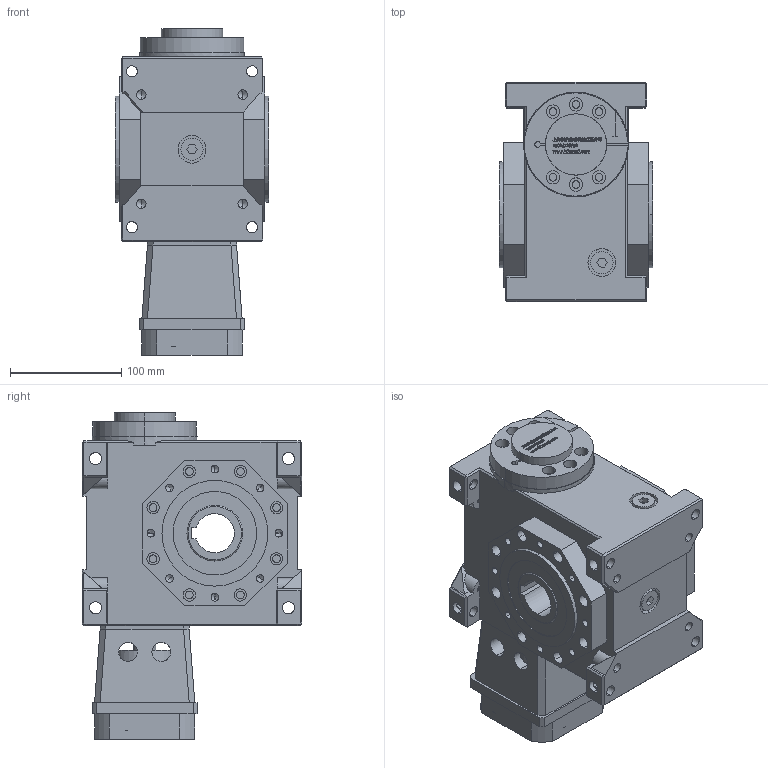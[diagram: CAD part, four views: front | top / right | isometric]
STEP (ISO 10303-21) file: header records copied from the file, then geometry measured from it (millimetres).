
FILE_DESCRIPTION (( 'STEP AP203' ), '1' );
FILE_NAME ('FXLB063-(5~90)-CR-19-70-90-M6.STEP', '2022-11-05T02:42:27', ( '' ), ( '' ), 'SwSTEP 2.0', 'SolidWorks 2020', '' );
FILE_SCHEMA (( 'CONFIG_CONTROL_DESIGN' ));
Products named in the file (1): FXLB063-(5~90)-CR-19-70-90-M6
Bounding box: 138 x 197 x 293.2 mm (x, y, z)
Volume: 4065202.9 mm3; surface area: 421802.5 mm2
Topology: 16 solids, 16 shells, 1990 faces, 5160 edges, 3344 vertices
Faces by surface type: plane 1080, cylinder 436, bspline 370, cone 84, torus 20
Entity records: 78429 total; most frequent: CARTESIAN_POINT 31725, ORIENTED_EDGE 10184, DIRECTION 8440, EDGE_CURVE 5092, VERTEX_POINT 3344, VECTOR 3310, LINE 3310, AXIS2_PLACEMENT_3D 2565
